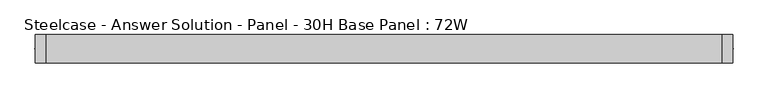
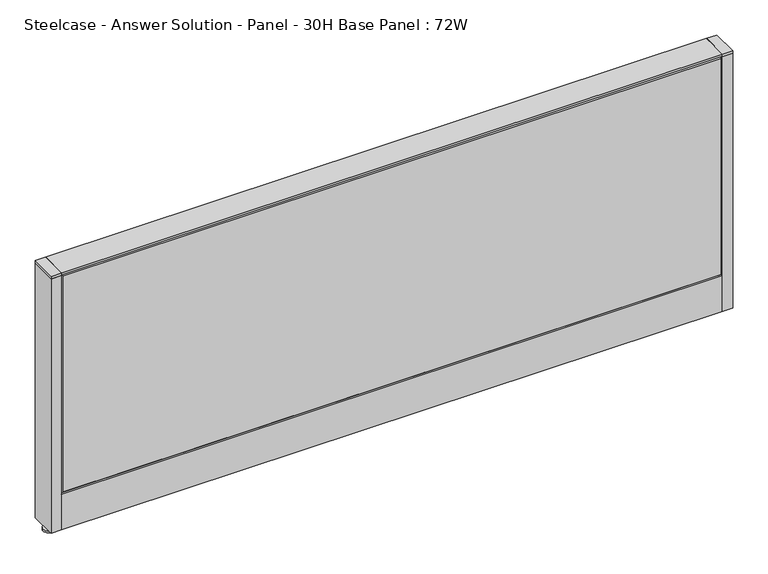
"""IFC4 building model written with IfcOpenShell, lengths in millimetres: furniture geometry, Steelcase - Answer Solution - Panel - 30H Base Panel : 72W."""

from ifc_helpers import new_model, si_unit, point, frame, frame_2d, origin, place, context, project, spatial, polyline, circle_curve, trimmed, segment, composite_curve, outline, extrude, faceted_brep, source, transform, mapped, element, save


def steelcase_answer_solution_panel_30h_base_panel_72w_e178b51f(model_context):
    return source(origin(), model_context, "Body", "SolidModel", [
        extrude(outline(composite_curve([segment(trimmed(circle_curve(frame_2d((928.624, 0.0320214)), 5.08), [point((933.704, 0.0320214))], [point((923.544, 0.0320214))], False, "CARTESIAN"), True, "CONTINUOUS"), segment(trimmed(circle_curve(frame_2d((928.624, 0.0320214)), 5.08), [point((923.544, 0.0320214))], [point((933.704, 0.0320214))], False, "CARTESIAN"), True, "CONTINUOUS")], self_intersect=False)), frame((0.0, 0.0, 5.0799671), z_axis=(0.0, 0.0, 1.0), x_axis=(1.0, 0.0, 0.0)), (0.0, 0.0, 1.0), 10.414),
        extrude(outline(composite_curve([segment(trimmed(circle_curve(frame_2d((928.624, 0.0320214)), 15.24), [point((943.864, 0.0320214))], [point((913.384, 0.0320214))], False, "CARTESIAN"), True, "CONTINUOUS"), segment(trimmed(circle_curve(frame_2d((928.624, 0.0320214)), 15.24), [point((913.384, 0.0320214))], [point((943.864, 0.0320214))], False, "CARTESIAN"), True, "CONTINUOUS")], self_intersect=False)), frame((0.0, 0.0, -3.29e-05), z_axis=(0.0, 0.0, 1.0), x_axis=(1.0, 0.0, 0.0)), (0.0, 0.0, 1.0), 5.08),
        extrude(outline(polyline([(942.975, 38.1320408), (942.975, -38.0679592), (914.4, -38.0679592), (914.4, 38.1320408), (942.975, 38.1320408)])), frame((0.0, 0.0, 761.0348), z_axis=(0.0, 0.0, 1.0), x_axis=(1.0, 0.0, 0.0)), (0.0, 0.0, 1.0), 7.3151671),
        extrude(outline(polyline([(942.975, 38.1320408), (942.975, -38.0679592), (914.4, -38.0679592), (914.4, 38.1320408), (942.975, 38.1320408)])), frame((0.0, 0.0, 15.4939671), z_axis=(0.0, 0.0, 1.0), x_axis=(1.0, 0.0, 0.0)), (0.0, 0.0, 1.0), 745.5408329),
        extrude(outline(composite_curve([segment(trimmed(circle_curve(frame_2d((-928.624, -0.0320214)), 5.08), [point((-933.704, -0.0320214))], [point((-923.544, -0.0320214))], False, "CARTESIAN"), True, "CONTINUOUS"), segment(trimmed(circle_curve(frame_2d((-928.624, -0.0320214)), 5.08), [point((-923.544, -0.0320214))], [point((-933.704, -0.0320214))], False, "CARTESIAN"), True, "CONTINUOUS")], self_intersect=False)), frame((0.0, 0.0, 5.0799671), z_axis=(0.0, 0.0, 1.0), x_axis=(1.0, 0.0, 0.0)), (0.0, 0.0, 1.0), 10.414),
        extrude(outline(composite_curve([segment(trimmed(circle_curve(frame_2d((-928.624, -0.0320214)), 15.24), [point((-943.864, -0.0320214))], [point((-913.384, -0.0320214))], False, "CARTESIAN"), True, "CONTINUOUS"), segment(trimmed(circle_curve(frame_2d((-928.624, -0.0320214)), 15.24), [point((-913.384, -0.0320214))], [point((-943.864, -0.0320214))], False, "CARTESIAN"), True, "CONTINUOUS")], self_intersect=False)), frame((0.0, 0.0, -3.29e-05), z_axis=(0.0, 0.0, 1.0), x_axis=(1.0, 0.0, 0.0)), (0.0, 0.0, 1.0), 5.08),
        extrude(outline(polyline([(-942.975, -38.1320408), (-942.975, 38.0679592), (-914.4, 38.0679592), (-914.4, -38.1320408), (-942.975, -38.1320408)])), frame((0.0, 0.0, 761.0348), z_axis=(0.0, 0.0, 1.0), x_axis=(1.0, 0.0, 0.0)), (0.0, 0.0, 1.0), 7.3151671),
        extrude(outline(polyline([(-942.975, -38.1320408), (-942.975, 38.0679592), (-914.4, 38.0679592), (-914.4, -38.1320408), (-942.975, -38.1320408)])), frame((0.0, 0.0, 15.4939671), z_axis=(0.0, 0.0, 1.0), x_axis=(1.0, 0.0, 0.0)), (0.0, 0.0, 1.0), 745.5408329),
        faceted_brep([(909.574, 38.1635011, 757.174), (909.574, 38.1635011, 125.476), (-909.574, 38.1635011, 125.476), (-909.574, 38.1635011, 757.174), (914.4, 33.3375011, 762.0), (-914.4, 33.3375011, 762.0), (-914.4, 33.3375011, 120.65), (914.4, 33.3375011, 120.65)], [[[0, 1, 2, 3]], [[4, 5, 6, 7]], [[4, 0, 3, 5]], [[5, 3, 2, 6]], [[6, 2, 1, 7]], [[7, 1, 0, 4]]]),
        faceted_brep([(909.574, -38.1635011, 757.174), (-909.574, -38.1635011, 757.174), (-909.574, -38.1635011, 125.476), (909.574, -38.1635011, 125.476), (914.4, -33.3375011, 762.0), (914.4, -33.3375011, 120.65), (-914.4, -33.3375011, 120.65), (-914.4, -33.3375011, 762.0)], [[[0, 1, 2, 3]], [[4, 5, 6, 7]], [[4, 7, 1, 0]], [[7, 6, 2, 1]], [[6, 5, 3, 2]], [[5, 4, 0, 3]]]),
        extrude(outline(polyline([(914.4, 38.1000194), (914.4, -38.1000194), (-914.4, -38.1000194), (-914.4, 38.1000194), (914.4, 38.1000194)])), frame((0.0, 0.0, 762.0), z_axis=(0.0, 0.0, 1.0), x_axis=(1.0, 0.0, 0.0)), (0.0, 0.0, 1.0), 6.35),
        extrude(outline(polyline([(37.3075215, 119.8575157), (25.4000011, 119.8575157), (25.4000011, 120.65), (38.1000194, 120.65), (38.1000194, 15.494), (37.3075215, 15.494), (37.3075215, 119.8575157)])), frame((-914.4, 0.0, 0.0), z_axis=(1.0, 0.0, 0.0), x_axis=(0.0, 1.0, 0.0)), (0.0, 0.0, 1.0), 1828.8),
        extrude(outline(polyline([(-37.3075215, 119.8575157), (-37.3075215, 15.494), (-38.1000194, 15.494), (-38.1000194, 120.65), (-25.4000011, 120.65), (-25.4000011, 119.8575157), (-37.3075215, 119.8575157)])), frame((-914.4, 0.0, 0.0), z_axis=(1.0, 0.0, 0.0), x_axis=(0.0, 1.0, 0.0)), (0.0, 0.0, 1.0), 1828.8),
    ])


if __name__ == "__main__":
    model = new_model("IFC4")
    model_context = context("Model", 3, world=origin())
    ifc_project = project(units=[si_unit("LENGTHUNIT", "METRE", prefix="MILLI")], contexts=[model_context])
    site = spatial("IfcSite", under=ifc_project)
    building = spatial("IfcBuilding", under=site)
    placement = place(None, origin())
    steelcase_answer_solution_panel_30h_base_panel_72w_shape = steelcase_answer_solution_panel_30h_base_panel_72w_e178b51f(model_context)
    element("IfcFurniture", 1, ObjectType="Steelcase - Answer Solution - Panel - 30H Base Panel : 72W", at=placement, inside=building, context=model_context, shape_type="MappedRepresentation", body=[
        mapped(steelcase_answer_solution_panel_30h_base_panel_72w_shape, transform((0.0, 0.0, 0.0), x_axis=(1.0, 0.0, 0.0), y_axis=(0.0, 1.0, 0.0), z_axis=(0.0, 0.0, 1.0))),
    ])
    save(model, "model.ifc")
